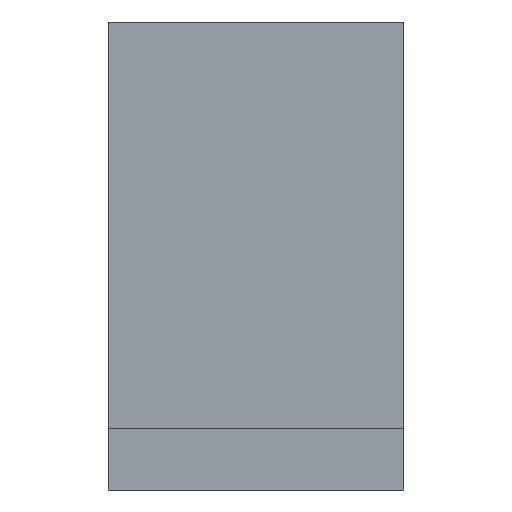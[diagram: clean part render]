
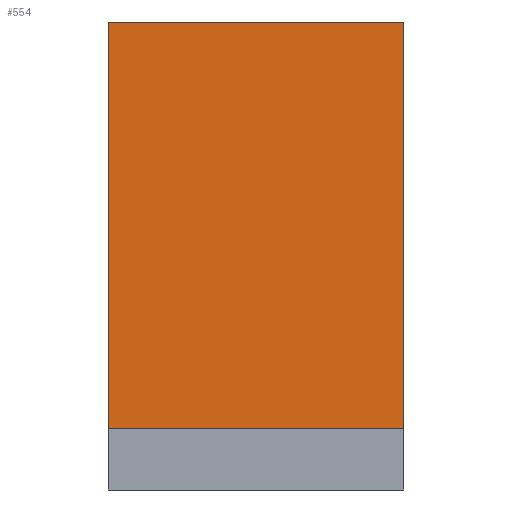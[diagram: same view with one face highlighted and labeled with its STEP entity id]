
A CAD part, left-side view. The second image highlights one B-rep face of the part: STEP entity #554.
In plain terms, the highlighted planar face has unit normal (-1, 0, 0).
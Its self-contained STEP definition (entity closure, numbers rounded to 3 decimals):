
#32 = PLANE('',#33);
#33 = AXIS2_PLACEMENT_3D('',#34,#35,#36);
#34 = CARTESIAN_POINT('',(-21.,-12.,0.));
#35 = DIRECTION('',(0.,1.,0.));
#36 = DIRECTION('',(0.,0.,1.));
#85 = VERTEX_POINT('',#86);
#86 = CARTESIAN_POINT('',(-21.,-12.,5.));
#100 = PLANE('',#101);
#101 = AXIS2_PLACEMENT_3D('',#102,#103,#104);
#102 = CARTESIAN_POINT('',(-32.,-12.,5.));
#103 = DIRECTION('',(0.,0.,1.));
#104 = DIRECTION('',(1.,0.,0.));
#112 = EDGE_CURVE('',#85,#113,#115,.T.);
#113 = VERTEX_POINT('',#114);
#114 = CARTESIAN_POINT('',(-21.,-12.,38.));
#115 = SURFACE_CURVE('',#116,(#120,#127),.PCURVE_S1.);
#116 = LINE('',#117,#118);
#117 = CARTESIAN_POINT('',(-21.,-12.,0.));
#118 = VECTOR('',#119,1.);
#119 = DIRECTION('',(0.,0.,1.));
#120 = PCURVE('',#32,#121);
#121 = DEFINITIONAL_REPRESENTATION('',(#122),#126);
#122 = LINE('',#123,#124);
#123 = CARTESIAN_POINT('',(0.,0.));
#124 = VECTOR('',#125,1.);
#125 = DIRECTION('',(1.,0.));
#126 = ( GEOMETRIC_REPRESENTATION_CONTEXT(2) 
PARAMETRIC_REPRESENTATION_CONTEXT() REPRESENTATION_CONTEXT('2D SPACE',''
  ) );
#127 = PCURVE('',#128,#133);
#128 = PLANE('',#129);
#129 = AXIS2_PLACEMENT_3D('',#130,#131,#132);
#130 = CARTESIAN_POINT('',(-21.,-12.,0.));
#131 = DIRECTION('',(1.,0.,0.));
#132 = DIRECTION('',(0.,0.,1.));
#133 = DEFINITIONAL_REPRESENTATION('',(#134),#138);
#134 = LINE('',#135,#136);
#135 = CARTESIAN_POINT('',(0.,0.));
#136 = VECTOR('',#137,1.);
#137 = DIRECTION('',(1.,0.));
#138 = ( GEOMETRIC_REPRESENTATION_CONTEXT(2) 
PARAMETRIC_REPRESENTATION_CONTEXT() REPRESENTATION_CONTEXT('2D SPACE',''
  ) );
#156 = PLANE('',#157);
#157 = AXIS2_PLACEMENT_3D('',#158,#159,#160);
#158 = CARTESIAN_POINT('',(-21.,-12.,38.));
#159 = DIRECTION('',(0.,0.,1.));
#160 = DIRECTION('',(1.,0.,0.));
#302 = PLANE('',#303);
#303 = AXIS2_PLACEMENT_3D('',#304,#305,#306);
#304 = CARTESIAN_POINT('',(-21.,12.,0.));
#305 = DIRECTION('',(0.,1.,0.));
#306 = DIRECTION('',(0.,0.,1.));
#480 = VERTEX_POINT('',#481);
#481 = CARTESIAN_POINT('',(-21.,12.,5.));
#504 = EDGE_CURVE('',#480,#85,#505,.T.);
#505 = SURFACE_CURVE('',#506,(#510,#517),.PCURVE_S1.);
#506 = LINE('',#507,#508);
#507 = CARTESIAN_POINT('',(-21.,-12.,5.));
#508 = VECTOR('',#509,1.);
#509 = DIRECTION('',(0.,-1.,0.));
#510 = PCURVE('',#100,#511);
#511 = DEFINITIONAL_REPRESENTATION('',(#512),#516);
#512 = LINE('',#513,#514);
#513 = CARTESIAN_POINT('',(11.,0.));
#514 = VECTOR('',#515,1.);
#515 = DIRECTION('',(0.,-1.));
#516 = ( GEOMETRIC_REPRESENTATION_CONTEXT(2) 
PARAMETRIC_REPRESENTATION_CONTEXT() REPRESENTATION_CONTEXT('2D SPACE',''
  ) );
#517 = PCURVE('',#128,#518);
#518 = DEFINITIONAL_REPRESENTATION('',(#519),#523);
#519 = LINE('',#520,#521);
#520 = CARTESIAN_POINT('',(5.,0.));
#521 = VECTOR('',#522,1.);
#522 = DIRECTION('',(0.,1.));
#523 = ( GEOMETRIC_REPRESENTATION_CONTEXT(2) 
PARAMETRIC_REPRESENTATION_CONTEXT() REPRESENTATION_CONTEXT('2D SPACE',''
  ) );
#554 = ADVANCED_FACE('',(#555),#128,.F.);
#555 = FACE_BOUND('',#556,.F.);
#556 = EDGE_LOOP('',(#557,#558,#559,#582));
#557 = ORIENTED_EDGE('',*,*,#112,.F.);
#558 = ORIENTED_EDGE('',*,*,#504,.F.);
#559 = ORIENTED_EDGE('',*,*,#560,.T.);
#560 = EDGE_CURVE('',#480,#561,#563,.T.);
#561 = VERTEX_POINT('',#562);
#562 = CARTESIAN_POINT('',(-21.,12.,38.));
#563 = SURFACE_CURVE('',#564,(#568,#575),.PCURVE_S1.);
#564 = LINE('',#565,#566);
#565 = CARTESIAN_POINT('',(-21.,12.,0.));
#566 = VECTOR('',#567,1.);
#567 = DIRECTION('',(0.,0.,1.));
#568 = PCURVE('',#128,#569);
#569 = DEFINITIONAL_REPRESENTATION('',(#570),#574);
#570 = LINE('',#571,#572);
#571 = CARTESIAN_POINT('',(0.,-24.));
#572 = VECTOR('',#573,1.);
#573 = DIRECTION('',(1.,0.));
#574 = ( GEOMETRIC_REPRESENTATION_CONTEXT(2) 
PARAMETRIC_REPRESENTATION_CONTEXT() REPRESENTATION_CONTEXT('2D SPACE',''
  ) );
#575 = PCURVE('',#302,#576);
#576 = DEFINITIONAL_REPRESENTATION('',(#577),#581);
#577 = LINE('',#578,#579);
#578 = CARTESIAN_POINT('',(0.,0.));
#579 = VECTOR('',#580,1.);
#580 = DIRECTION('',(1.,0.));
#581 = ( GEOMETRIC_REPRESENTATION_CONTEXT(2) 
PARAMETRIC_REPRESENTATION_CONTEXT() REPRESENTATION_CONTEXT('2D SPACE',''
  ) );
#582 = ORIENTED_EDGE('',*,*,#583,.F.);
#583 = EDGE_CURVE('',#113,#561,#584,.T.);
#584 = SURFACE_CURVE('',#585,(#589,#596),.PCURVE_S1.);
#585 = LINE('',#586,#587);
#586 = CARTESIAN_POINT('',(-21.,-12.,38.));
#587 = VECTOR('',#588,1.);
#588 = DIRECTION('',(0.,1.,0.));
#589 = PCURVE('',#128,#590);
#590 = DEFINITIONAL_REPRESENTATION('',(#591),#595);
#591 = LINE('',#592,#593);
#592 = CARTESIAN_POINT('',(38.,0.));
#593 = VECTOR('',#594,1.);
#594 = DIRECTION('',(0.,-1.));
#595 = ( GEOMETRIC_REPRESENTATION_CONTEXT(2) 
PARAMETRIC_REPRESENTATION_CONTEXT() REPRESENTATION_CONTEXT('2D SPACE',''
  ) );
#596 = PCURVE('',#156,#597);
#597 = DEFINITIONAL_REPRESENTATION('',(#598),#602);
#598 = LINE('',#599,#600);
#599 = CARTESIAN_POINT('',(0.,0.));
#600 = VECTOR('',#601,1.);
#601 = DIRECTION('',(0.,1.));
#602 = ( GEOMETRIC_REPRESENTATION_CONTEXT(2) 
PARAMETRIC_REPRESENTATION_CONTEXT() REPRESENTATION_CONTEXT('2D SPACE',''
  ) );
